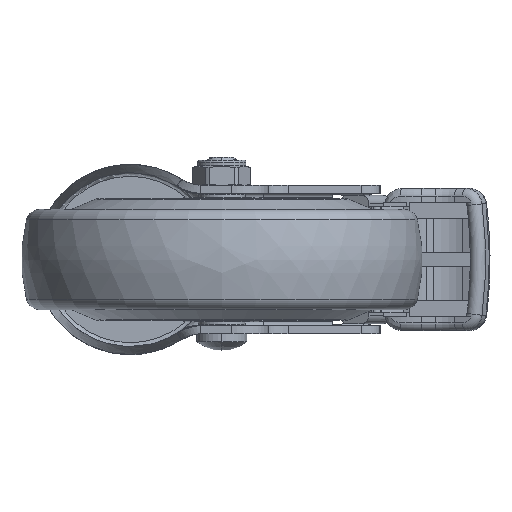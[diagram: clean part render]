
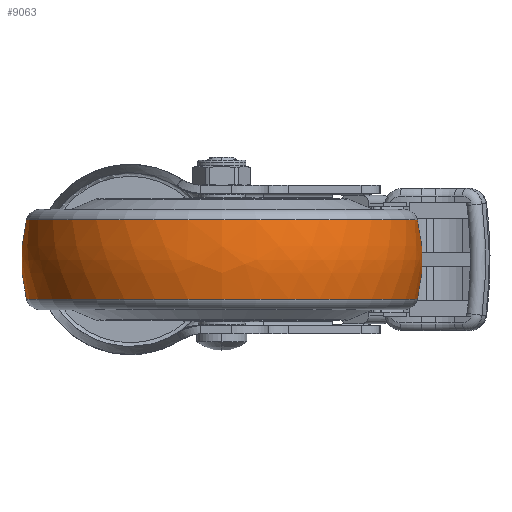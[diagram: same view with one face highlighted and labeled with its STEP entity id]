
A CAD part, front view. The second image highlights one B-rep face of the part: STEP entity #9063.
In plain terms, the highlighted free-form (B-spline) face has degree [3, 3] with [7, 4] control points.
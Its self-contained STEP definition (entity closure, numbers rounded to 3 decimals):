
#8565=CARTESIAN_POINT('',(0.,10.,0.));
#8566=DIRECTION('',(0.,0.,1.));
#8567=DIRECTION('',(0.247,0.969,0.));
#8568=AXIS2_PLACEMENT_3D('',#8565,#8566,#8567);
#8570=CARTESIAN_POINT('',(0.,-10.,0.));
#8571=DIRECTION('',(0.,0.,-1.));
#8572=DIRECTION('',(0.247,-0.969,0.));
#8573=AXIS2_PLACEMENT_3D('',#8570,#8571,#8572);
#8575=CARTESIAN_POINT('',(9.863,0.,0.));
#8576=DIRECTION('',(-1.,0.,0.));
#8577=DIRECTION('',(0.,1.,0.));
#8578=AXIS2_PLACEMENT_3D('',#8575,#8576,#8577);
#8600=CARTESIAN_POINT('',(-9.863,0.,0.));
#8601=DIRECTION('',(-1.,0.,0.));
#8602=DIRECTION('',(0.,1.,0.));
#8603=AXIS2_PLACEMENT_3D('',#8600,#8601,#8602);
#8754=CARTESIAN_POINT('',(9.863,48.765,0.));
#8756=VERTEX_POINT('',#8754);
#8757=CARTESIAN_POINT('',(-9.863,48.765,0.));
#8758=VERTEX_POINT('',#8757);
#8794=CARTESIAN_POINT('',(9.863,-48.765,
0.));
#8796=VERTEX_POINT('',#8794);
#8797=CARTESIAN_POINT('',(-9.863,-48.765,
0.));
#8798=VERTEX_POINT('',#8797);
#9025=CARTESIAN_POINT('',(-10.249,-48.569,
3.056));
#9026=CARTESIAN_POINT('',(-3.494,-50.356,
3.168));
#9027=CARTESIAN_POINT('',(3.494,-50.356,3.168));
#9028=CARTESIAN_POINT('',(10.249,-48.569,3.056));
#9029=CARTESIAN_POINT('',(-10.249,-50.449,
-26.833));
#9030=CARTESIAN_POINT('',(-3.494,-52.305,
-27.821));
#9031=CARTESIAN_POINT('',(3.494,-52.305,
-27.821));
#9032=CARTESIAN_POINT('',(10.249,-50.449,
-26.833));
#9033=CARTESIAN_POINT('',(-10.249,-29.948,
-48.665));
#9034=CARTESIAN_POINT('',(-3.494,-31.05,
-50.455));
#9035=CARTESIAN_POINT('',(3.494,-31.05,
-50.455));
#9036=CARTESIAN_POINT('',(10.249,-29.948,
-48.665));
#9037=CARTESIAN_POINT('',(-10.249,0.,
-48.665));
#9038=CARTESIAN_POINT('',(-3.494,0.,
-50.455));
#9039=CARTESIAN_POINT('',(3.494,0.,
-50.455));
#9040=CARTESIAN_POINT('',(10.249,0.,
-48.665));
#9041=CARTESIAN_POINT('',(-10.249,29.948,
-48.665));
#9042=CARTESIAN_POINT('',(-3.494,31.05,
-50.455));
#9043=CARTESIAN_POINT('',(3.494,31.05,-50.455));
#9044=CARTESIAN_POINT('',(10.249,29.948,-48.665));
#9045=CARTESIAN_POINT('',(-10.249,50.449,
-26.833));
#9046=CARTESIAN_POINT('',(-3.494,52.305,
-27.821));
#9047=CARTESIAN_POINT('',(3.494,52.305,-27.821));
#9048=CARTESIAN_POINT('',(10.249,50.449,-26.833));
#9049=CARTESIAN_POINT('',(-10.249,48.569,3.056));
#9050=CARTESIAN_POINT('',(-3.494,50.356,3.168));
#9051=CARTESIAN_POINT('',(3.494,50.356,3.168));
#9052=CARTESIAN_POINT('',(10.249,48.569,3.056));
#9053=(BOUNDED_SURFACE()B_SPLINE_SURFACE(3,3,((#9025,#9026,#9027,#9028),(#9029,
#9030,#9031,#9032),(#9033,#9034,#9035,#9036),(#9037,#9038,#9039,#9040),(#9041,
#9042,#9043,#9044),(#9045,#9046,#9047,#9048),(#9049,#9050,#9051,#9052)),
.UNSPECIFIED.,.F.,.F.,.F.)B_SPLINE_SURFACE_WITH_KNOTS((4,3,4),(4,4),(0.,1.,
2.),(0.,1.),.UNSPECIFIED.)GEOMETRIC_REPRESENTATION_ITEM()RATIONAL_B_SPLINE_SURFACE(((1.207,1.181,1.181,1.207),(
0.953,0.932,0.932,0.953),(
0.953,0.932,0.932,0.953),(
1.207,1.181,1.181,1.207),(
0.953,0.932,0.932,0.953),(
0.953,0.932,0.932,0.953),(
1.207,1.181,1.181,1.207)))REPRESENTATION_ITEM('')SURFACE());
#9055=ORIENTED_EDGE('',*,*,#9054,.T.);
#9057=ORIENTED_EDGE('',*,*,#9056,.T.);
#9059=ORIENTED_EDGE('',*,*,#9058,.F.);
#9060=ORIENTED_EDGE('',*,*,#9018,.F.);
#9061=EDGE_LOOP('',(#9055,#9057,#9059,#9060));
#9062=FACE_OUTER_BOUND('',#9061,.F.);
#8569=CIRCLE('',#8568,40.);
#8574=CIRCLE('',#8573,40.);
#8579=CIRCLE('',#8578,48.765);
#8604=CIRCLE('',#8603,48.765);
#9018=EDGE_CURVE('',#8756,#8796,#8579,.T.);
#9054=EDGE_CURVE('',#8756,#8758,#8569,.T.);
#9056=EDGE_CURVE('',#8758,#8798,#8604,.T.);
#9058=EDGE_CURVE('',#8796,#8798,#8574,.T.);
#9063=ADVANCED_FACE('',(#9062),#9053,.T.);
